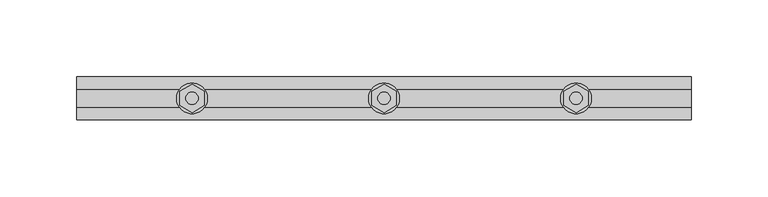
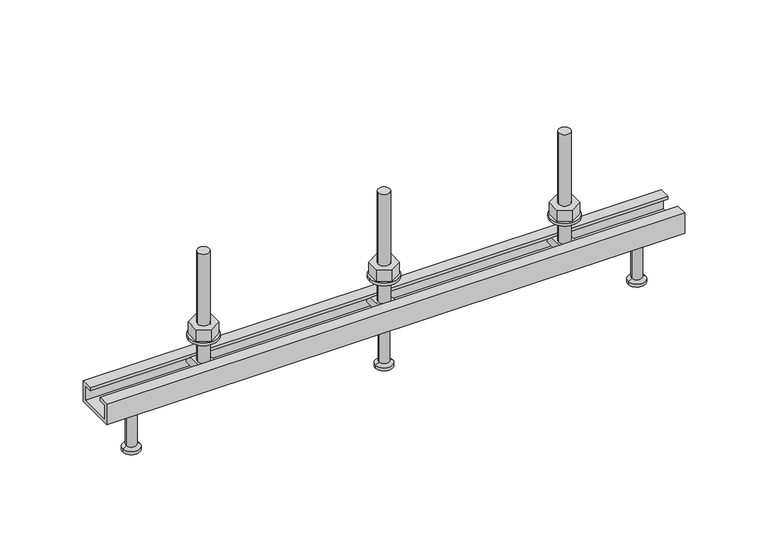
"""IFC4 building model written with IfcOpenShell, lengths in millimetres: fastener geometry, JTA-K JORDAHL® AnchorChannels : JTA-K L=400 mm."""

from ifc_helpers import new_model, si_unit, point, frame, frame_2d, origin, place, context, project, spatial, polyline, circle_curve, trimmed, segment, composite_curve, outline, extrude, source, transform, mapped, element, save
from ifc_brep_helpers import plane_surface, cylinder_surface, revolved_surface, advanced_brep


def fastener_0c17b6f2(model_context):
    return source(origin(), model_context, "Body", "SolidModel", [
        extrude(outline(polyline([(200.0, 9.2376043), (208.0, 4.6188022), (208.0, -4.6188022), (200.0, -9.2376043), (192.0, -4.6188022), (192.0, 4.6188022), (200.0, 9.2376043)]), holes=[composite_curve([segment(trimmed(circle_curve(frame_2d((200.0, 0.0)), 4.0), [point((196.0, 0.0))], [point((204.0, 0.0))], True, "CARTESIAN"), True, "CONTINUOUS"), segment(trimmed(circle_curve(frame_2d((200.0, 0.0)), 4.0), [point((204.0, 0.0))], [point((196.0, 0.0))], True, "CARTESIAN"), True, "CONTINUOUS")], self_intersect=False)]), frame((0.0, 0.0, 17.0), z_axis=(0.0, 0.0, 1.0), x_axis=(1.0, 0.0, 0.0)), (0.0, 0.0, 1.0), 8.4),
        extrude(outline(composite_curve([segment(trimmed(circle_curve(frame_2d((200.0, 0.0)), 10.0), [point((190.0, 0.0))], [point((210.0, 0.0))], False, "CARTESIAN"), True, "CONTINUOUS"), segment(trimmed(circle_curve(frame_2d((200.0, 0.0)), 10.0), [point((210.0, 0.0))], [point((190.0, 0.0))], False, "CARTESIAN"), True, "CONTINUOUS")], self_intersect=False), holes=[composite_curve([segment(trimmed(circle_curve(frame_2d((200.0, 0.0)), 5.25), [point((194.75, 0.0))], [point((205.25, 0.0))], True, "CARTESIAN"), True, "CONTINUOUS"), segment(trimmed(circle_curve(frame_2d((200.0, 0.0)), 5.25), [point((205.25, 0.0))], [point((194.75, 0.0))], True, "CARTESIAN"), True, "CONTINUOUS")], self_intersect=False)]), frame((0.0, 0.0, 15.0), z_axis=(0.0, 0.0, 1.0), x_axis=(1.0, 0.0, 0.0)), (0.0, 0.0, 1.0), 2.0),
        advanced_brep(
        [(205.5, 11.0, -2.3), (205.5, -11.0, -2.3), (205.5, -11.0, -8.3), (205.5, 11.0, -8.3), (194.5, 11.0, -2.3), (194.5, 11.0, -8.3), (194.5, -11.0, -8.3), (194.5, -11.0, -2.3), (204.0, 0.0, -2.3), (196.0, 0.0, -2.3), (196.0, 0.0, 77.7), (204.0, 0.0, 77.7)],
        [
            (0, 1),
            (1, 2),
            (2, 3),
            (3, 0),
            (4, 5),
            (5, 6),
            (6, 7),
            (7, 4),
            (0, 4),
            (7, 1),
            (8, 9, circle_curve(frame((200.0, 0.0, -2.3), z_axis=(0.0, 0.0, -1.0), x_axis=(1.0, 0.0, 0.0)), 4.0)),
            (9, 8, circle_curve(frame((200.0, 0.0, -2.3), z_axis=(0.0, 0.0, -1.0), x_axis=(1.0, 0.0, 0.0)), 4.0)),
            (6, 2),
            (5, 3),
            (10, 11, circle_curve(frame((200.0, 0.0, 77.7), z_axis=(0.0, 0.0, 1.0), x_axis=(1.0, 0.0, 0.0)), 4.0)),
            (11, 10, circle_curve(frame((200.0, 0.0, 77.7), z_axis=(0.0, 0.0, 1.0), x_axis=(1.0, 0.0, 0.0)), 4.0)),
            (10, 9),
            (8, 11),
        ],
        [
            plane_surface(frame((205.5, -11.0, -2.3), z_axis=(1.0, 0.0, 0.0), x_axis=(0.0, -1.0, 0.0))),
            plane_surface(frame((194.5, -11.0, -2.3), z_axis=(-1.0, 0.0, 0.0), x_axis=(0.0, 1.0, 0.0))),
            plane_surface(frame((205.5, 11.0, -2.3), z_axis=(0.0, 0.0, 1.0), x_axis=(-1.0, 0.0, 0.0))),
            plane_surface(frame((205.5, -11.0, -2.3), z_axis=(0.0, -1.0, 0.0), x_axis=(-1.0, 0.0, 0.0))),
            plane_surface(frame((205.5, -11.0, -8.3), z_axis=(0.0, 0.0, -1.0), x_axis=(-1.0, 0.0, 0.0))),
            plane_surface(frame((205.5, 11.0, -8.3), z_axis=(0.0, 1.0, 0.0), x_axis=(-1.0, 0.0, 0.0))),
            plane_surface(frame((204.0, 0.0, 77.7), z_axis=(0.0, 0.0, 1.0), x_axis=(0.0, 1.0, 0.0))),
            cylinder_surface(frame((200.0, 0.0, -2.3), z_axis=(0.0, 0.0, 1.0), x_axis=(1.0, 0.0, 0.0)), 4.0),
        ],
        [
            (0, [[1, 2, 3, 4]]),
            (1, [[5, 6, 7, 8]]),
            (2, [[-1, 9, -8, 10], [11, 12]]),
            (3, [[-2, -10, -7, 13]]),
            (4, [[-3, -13, -6, 14]]),
            (5, [[-4, -14, -5, -9]]),
            (6, [[15, 16]]),
            (7, [[-15, 17, -11, 18]]),
            (7, [[-16, -18, -12, -17]]),
        ],
    ),
        advanced_brep(
        [(200.0, 0.0, -15.0), (210.5, 0.0, -15.0), (189.5, 0.0, -15.0), (194.0, 0.0, -50.0), (206.0, 0.0, -50.0), (200.0, 0.0, -50.0), (194.0, 0.0, -48.0), (206.0, 0.0, -48.0), (196.5, 0.0, -46.5566243), (203.5, 0.0, -46.5566243), (196.5, 0.0, -17.5), (203.5, 0.0, -17.5)],
        [
            (0, 1),
            (1, 2, circle_curve(frame((200.0, 0.0, -15.0), z_axis=(0.0, 0.0, 1.0), x_axis=(1.0, 0.0, 0.0)), 10.5)),
            (2, 0),
            (2, 1, circle_curve(frame((200.0, 0.0, -15.0), z_axis=(0.0, 0.0, 1.0), x_axis=(1.0, 0.0, 0.0)), 10.5)),
            (3, 4, circle_curve(frame((200.0, 0.0, -50.0), z_axis=(0.0, 0.0, -1.0), x_axis=(1.0, 0.0, 0.0)), 6.0)),
            (4, 5),
            (5, 3),
            (4, 3, circle_curve(frame((200.0, 0.0, -50.0), z_axis=(0.0, 0.0, -1.0), x_axis=(1.0, 0.0, 0.0)), 6.0)),
            (6, 7, circle_curve(frame((200.0, 0.0, -48.0), z_axis=(0.0, 0.0, -1.0), x_axis=(1.0, 0.0, 0.0)), 6.0)),
            (7, 4),
            (3, 6),
            (7, 6, circle_curve(frame((200.0, 0.0, -48.0), z_axis=(0.0, 0.0, -1.0), x_axis=(1.0, 0.0, 0.0)), 6.0)),
            (8, 9, circle_curve(frame((200.0, 0.0, -46.5566243), z_axis=(0.0, 0.0, -1.0), x_axis=(1.0, 0.0, 0.0)), 3.5)),
            (9, 7),
            (6, 8),
            (9, 8, circle_curve(frame((200.0, 0.0, -46.5566243), z_axis=(0.0, 0.0, -1.0), x_axis=(1.0, 0.0, 0.0)), 3.5)),
            (10, 11, circle_curve(frame((200.0, 0.0, -17.5), z_axis=(0.0, 0.0, -1.0), x_axis=(1.0, 0.0, 0.0)), 3.5)),
            (11, 9),
            (8, 10),
            (11, 10, circle_curve(frame((200.0, 0.0, -17.5), z_axis=(0.0, 0.0, -1.0), x_axis=(1.0, 0.0, 0.0)), 3.5)),
            (1, 11),
            (10, 2),
        ],
        [
            plane_surface(frame((200.0, 0.0, -15.0), z_axis=(0.0, 0.0, 1.0), x_axis=(1.0, 0.0, 0.0))),
            plane_surface(frame((200.0, 0.0, -50.0), z_axis=(0.0, 0.0, -1.0), x_axis=(1.0, 0.0, 0.0))),
            cylinder_surface(frame((200.0, 0.0, 2249.3150031), z_axis=(0.0, 0.0, 1.0), x_axis=(1.0, 0.0, 0.0)), 6.0),
            revolved_surface(polyline([(206.0, 0.0, -48.0), (203.5, 0.0, -46.5566243)]), (200.0, 0.0, 2249.3150031), (0.0, 0.0, 1.0)),
            cylinder_surface(frame((200.0, 0.0, 2249.3150031), z_axis=(0.0, 0.0, 1.0), x_axis=(1.0, 0.0, 0.0)), 3.5),
            revolved_surface(polyline([(203.5, 0.0, -17.5), (210.5, 0.0, -15.0)]), (200.0, 0.0, 2249.3150031), (0.0, 0.0, 1.0)),
        ],
        [
            (0, [[1, 2, 3]]),
            (0, [[-3, 4, -1]]),
            (1, [[5, 6, 7]]),
            (1, [[8, -7, -6]]),
            (2, [[9, 10, -5, 11]]),
            (2, [[12, -11, -8, -10]]),
            (3, [[13, 14, -9, 15]]),
            (3, [[16, -15, -12, -14]]),
            (4, [[17, 18, -13, 19]]),
            (4, [[20, -19, -16, -18]]),
            (5, [[-2, 21, -17, 22]]),
            (5, [[-4, -22, -20, -21]]),
        ],
    ),
        extrude(outline(polyline([(325.0, 9.2376043), (333.0, 4.6188022), (333.0, -4.6188022), (325.0, -9.2376043), (317.0, -4.6188022), (317.0, 4.6188022), (325.0, 9.2376043)]), holes=[composite_curve([segment(trimmed(circle_curve(frame_2d((325.0, 0.0)), 4.0), [point((321.0, 0.0))], [point((329.0, 0.0))], True, "CARTESIAN"), True, "CONTINUOUS"), segment(trimmed(circle_curve(frame_2d((325.0, 0.0)), 4.0), [point((329.0, 0.0))], [point((321.0, 0.0))], True, "CARTESIAN"), True, "CONTINUOUS")], self_intersect=False)]), frame((0.0, 0.0, 17.0), z_axis=(0.0, 0.0, 1.0), x_axis=(1.0, 0.0, 0.0)), (0.0, 0.0, 1.0), 8.4),
        extrude(outline(composite_curve([segment(trimmed(circle_curve(frame_2d((325.0, 0.0)), 10.0), [point((315.0, 0.0))], [point((335.0, 0.0))], False, "CARTESIAN"), True, "CONTINUOUS"), segment(trimmed(circle_curve(frame_2d((325.0, 0.0)), 10.0), [point((335.0, 0.0))], [point((315.0, 0.0))], False, "CARTESIAN"), True, "CONTINUOUS")], self_intersect=False), holes=[composite_curve([segment(trimmed(circle_curve(frame_2d((325.0, 0.0)), 5.25), [point((319.75, 0.0))], [point((330.25, 0.0))], True, "CARTESIAN"), True, "CONTINUOUS"), segment(trimmed(circle_curve(frame_2d((325.0, 0.0)), 5.25), [point((330.25, 0.0))], [point((319.75, 0.0))], True, "CARTESIAN"), True, "CONTINUOUS")], self_intersect=False)]), frame((0.0, 0.0, 15.0), z_axis=(0.0, 0.0, 1.0), x_axis=(1.0, 0.0, 0.0)), (0.0, 0.0, 1.0), 2.0),
        extrude(outline(polyline([(75.0, 9.2376043), (83.0, 4.6188022), (83.0, -4.6188022), (75.0, -9.2376043), (67.0, -4.6188022), (67.0, 4.6188022), (75.0, 9.2376043)]), holes=[composite_curve([segment(trimmed(circle_curve(frame_2d((75.0, 0.0)), 4.0), [point((71.0, 0.0))], [point((79.0, 0.0))], True, "CARTESIAN"), True, "CONTINUOUS"), segment(trimmed(circle_curve(frame_2d((75.0, 0.0)), 4.0), [point((79.0, 0.0))], [point((71.0, 0.0))], True, "CARTESIAN"), True, "CONTINUOUS")], self_intersect=False)]), frame((0.0, 0.0, 17.0), z_axis=(0.0, 0.0, 1.0), x_axis=(1.0, 0.0, 0.0)), (0.0, 0.0, 1.0), 8.4),
        extrude(outline(composite_curve([segment(trimmed(circle_curve(frame_2d((75.0, 0.0)), 10.0), [point((65.0, 0.0))], [point((85.0, 0.0))], False, "CARTESIAN"), True, "CONTINUOUS"), segment(trimmed(circle_curve(frame_2d((75.0, 0.0)), 10.0), [point((85.0, 0.0))], [point((65.0, 0.0))], False, "CARTESIAN"), True, "CONTINUOUS")], self_intersect=False), holes=[composite_curve([segment(trimmed(circle_curve(frame_2d((75.0, 0.0)), 5.25), [point((69.75, 0.0))], [point((80.25, 0.0))], True, "CARTESIAN"), True, "CONTINUOUS"), segment(trimmed(circle_curve(frame_2d((75.0, 0.0)), 5.25), [point((80.25, 0.0))], [point((69.75, 0.0))], True, "CARTESIAN"), True, "CONTINUOUS")], self_intersect=False)]), frame((0.0, 0.0, 15.0), z_axis=(0.0, 0.0, 1.0), x_axis=(1.0, 0.0, 0.0)), (0.0, 0.0, 1.0), 2.0),
        advanced_brep(
        [(330.5, 11.0, -2.3), (330.5, -11.0, -2.3), (330.5, -11.0, -8.3), (330.5, 11.0, -8.3), (319.5, 11.0, -2.3), (319.5, 11.0, -8.3), (319.5, -11.0, -8.3), (319.5, -11.0, -2.3), (329.0, 0.0, -2.3), (321.0, 0.0, -2.3), (321.0, 0.0, 77.7), (329.0, 0.0, 77.7)],
        [
            (0, 1),
            (1, 2),
            (2, 3),
            (3, 0),
            (4, 5),
            (5, 6),
            (6, 7),
            (7, 4),
            (0, 4),
            (7, 1),
            (8, 9, circle_curve(frame((325.0, 0.0, -2.3), z_axis=(0.0, 0.0, -1.0), x_axis=(1.0, 0.0, 0.0)), 4.0)),
            (9, 8, circle_curve(frame((325.0, 0.0, -2.3), z_axis=(0.0, 0.0, -1.0), x_axis=(1.0, 0.0, 0.0)), 4.0)),
            (6, 2),
            (5, 3),
            (10, 11, circle_curve(frame((325.0, 0.0, 77.7), z_axis=(0.0, 0.0, 1.0), x_axis=(1.0, 0.0, 0.0)), 4.0)),
            (11, 10, circle_curve(frame((325.0, 0.0, 77.7), z_axis=(0.0, 0.0, 1.0), x_axis=(1.0, 0.0, 0.0)), 4.0)),
            (10, 9),
            (8, 11),
        ],
        [
            plane_surface(frame((330.5, -11.0, -2.3), z_axis=(1.0, 0.0, 0.0), x_axis=(0.0, -1.0, 0.0))),
            plane_surface(frame((319.5, -11.0, -2.3), z_axis=(-1.0, 0.0, 0.0), x_axis=(0.0, 1.0, 0.0))),
            plane_surface(frame((330.5, 11.0, -2.3), z_axis=(0.0, 0.0, 1.0), x_axis=(-1.0, 0.0, 0.0))),
            plane_surface(frame((330.5, -11.0, -2.3), z_axis=(0.0, -1.0, 0.0), x_axis=(-1.0, 0.0, 0.0))),
            plane_surface(frame((330.5, -11.0, -8.3), z_axis=(0.0, 0.0, -1.0), x_axis=(-1.0, 0.0, 0.0))),
            plane_surface(frame((330.5, 11.0, -8.3), z_axis=(0.0, 1.0, 0.0), x_axis=(-1.0, 0.0, 0.0))),
            plane_surface(frame((329.0, 0.0, 77.7), z_axis=(0.0, 0.0, 1.0), x_axis=(0.0, 1.0, 0.0))),
            cylinder_surface(frame((325.0, 0.0, -2.3), z_axis=(0.0, 0.0, 1.0), x_axis=(1.0, 0.0, 0.0)), 4.0),
        ],
        [
            (0, [[1, 2, 3, 4]]),
            (1, [[5, 6, 7, 8]]),
            (2, [[-1, 9, -8, 10], [11, 12]]),
            (3, [[-2, -10, -7, 13]]),
            (4, [[-3, -13, -6, 14]]),
            (5, [[-4, -14, -5, -9]]),
            (6, [[15, 16]]),
            (7, [[-15, 17, -11, 18]]),
            (7, [[-16, -18, -12, -17]]),
        ],
    ),
        advanced_brep(
        [(80.5, 11.0, -2.3), (80.5, -11.0, -2.3), (80.5, -11.0, -8.3), (80.5, 11.0, -8.3), (69.5, 11.0, -2.3), (69.5, 11.0, -8.3), (69.5, -11.0, -8.3), (69.5, -11.0, -2.3), (79.0, 0.0, -2.3), (71.0, 0.0, -2.3), (71.0, 0.0, 77.7), (79.0, 0.0, 77.7)],
        [
            (0, 1),
            (1, 2),
            (2, 3),
            (3, 0),
            (4, 5),
            (5, 6),
            (6, 7),
            (7, 4),
            (0, 4),
            (7, 1),
            (8, 9, circle_curve(frame((75.0, 0.0, -2.3), z_axis=(0.0, 0.0, -1.0), x_axis=(1.0, 0.0, 0.0)), 4.0)),
            (9, 8, circle_curve(frame((75.0, 0.0, -2.3), z_axis=(0.0, 0.0, -1.0), x_axis=(1.0, 0.0, 0.0)), 4.0)),
            (6, 2),
            (5, 3),
            (10, 11, circle_curve(frame((75.0, 0.0, 77.7), z_axis=(0.0, 0.0, 1.0), x_axis=(1.0, 0.0, 0.0)), 4.0)),
            (11, 10, circle_curve(frame((75.0, 0.0, 77.7), z_axis=(0.0, 0.0, 1.0), x_axis=(1.0, 0.0, 0.0)), 4.0)),
            (10, 9),
            (8, 11),
        ],
        [
            plane_surface(frame((80.5, -11.0, -2.3), z_axis=(1.0, 0.0, 0.0), x_axis=(0.0, -1.0, 0.0))),
            plane_surface(frame((69.5, -11.0, -2.3), z_axis=(-1.0, 0.0, 0.0), x_axis=(0.0, 1.0, 0.0))),
            plane_surface(frame((80.5, 11.0, -2.3), z_axis=(0.0, 0.0, 1.0), x_axis=(-1.0, 0.0, 0.0))),
            plane_surface(frame((80.5, -11.0, -2.3), z_axis=(0.0, -1.0, 0.0), x_axis=(-1.0, 0.0, 0.0))),
            plane_surface(frame((80.5, -11.0, -8.3), z_axis=(0.0, 0.0, -1.0), x_axis=(-1.0, 0.0, 0.0))),
            plane_surface(frame((80.5, 11.0, -8.3), z_axis=(0.0, 1.0, 0.0), x_axis=(-1.0, 0.0, 0.0))),
            plane_surface(frame((79.0, 0.0, 77.7), z_axis=(0.0, 0.0, 1.0), x_axis=(0.0, 1.0, 0.0))),
            cylinder_surface(frame((75.0, 0.0, -2.3), z_axis=(0.0, 0.0, 1.0), x_axis=(1.0, 0.0, 0.0)), 4.0),
        ],
        [
            (0, [[1, 2, 3, 4]]),
            (1, [[5, 6, 7, 8]]),
            (2, [[-1, 9, -8, 10], [11, 12]]),
            (3, [[-2, -10, -7, 13]]),
            (4, [[-3, -13, -6, 14]]),
            (5, [[-4, -14, -5, -9]]),
            (6, [[15, 16]]),
            (7, [[-15, 17, -11, 18]]),
            (7, [[-16, -18, -12, -17]]),
        ],
    ),
        advanced_brep(
        [(375.0, 0.0, -15.0), (385.5, 0.0, -15.0), (364.5, 0.0, -15.0), (369.0, 0.0, -50.0), (381.0, 0.0, -50.0), (375.0, 0.0, -50.0), (369.0, 0.0, -48.0), (381.0, 0.0, -48.0), (371.5, 0.0, -46.5566243), (378.5, 0.0, -46.5566243), (371.5, 0.0, -17.5), (378.5, 0.0, -17.5)],
        [
            (0, 1),
            (1, 2, circle_curve(frame((375.0, 0.0, -15.0), z_axis=(0.0, 0.0, 1.0), x_axis=(1.0, 0.0, 0.0)), 10.5)),
            (2, 0),
            (2, 1, circle_curve(frame((375.0, 0.0, -15.0), z_axis=(0.0, 0.0, 1.0), x_axis=(1.0, 0.0, 0.0)), 10.5)),
            (3, 4, circle_curve(frame((375.0, 0.0, -50.0), z_axis=(0.0, 0.0, -1.0), x_axis=(1.0, 0.0, 0.0)), 6.0)),
            (4, 5),
            (5, 3),
            (4, 3, circle_curve(frame((375.0, 0.0, -50.0), z_axis=(0.0, 0.0, -1.0), x_axis=(1.0, 0.0, 0.0)), 6.0)),
            (6, 7, circle_curve(frame((375.0, 0.0, -48.0), z_axis=(0.0, 0.0, -1.0), x_axis=(1.0, 0.0, 0.0)), 6.0)),
            (7, 4),
            (3, 6),
            (7, 6, circle_curve(frame((375.0, 0.0, -48.0), z_axis=(0.0, 0.0, -1.0), x_axis=(1.0, 0.0, 0.0)), 6.0)),
            (8, 9, circle_curve(frame((375.0, 0.0, -46.5566243), z_axis=(0.0, 0.0, -1.0), x_axis=(1.0, 0.0, 0.0)), 3.5)),
            (9, 7),
            (6, 8),
            (9, 8, circle_curve(frame((375.0, 0.0, -46.5566243), z_axis=(0.0, 0.0, -1.0), x_axis=(1.0, 0.0, 0.0)), 3.5)),
            (10, 11, circle_curve(frame((375.0, 0.0, -17.5), z_axis=(0.0, 0.0, -1.0), x_axis=(1.0, 0.0, 0.0)), 3.5)),
            (11, 9),
            (8, 10),
            (11, 10, circle_curve(frame((375.0, 0.0, -17.5), z_axis=(0.0, 0.0, -1.0), x_axis=(1.0, 0.0, 0.0)), 3.5)),
            (1, 11),
            (10, 2),
        ],
        [
            plane_surface(frame((375.0, 0.0, -15.0), z_axis=(0.0, 0.0, 1.0), x_axis=(1.0, 0.0, 0.0))),
            plane_surface(frame((375.0, 0.0, -50.0), z_axis=(0.0, 0.0, -1.0), x_axis=(1.0, 0.0, 0.0))),
            cylinder_surface(frame((375.0, 0.0, 2249.3150031), z_axis=(0.0, 0.0, 1.0), x_axis=(1.0, 0.0, 0.0)), 6.0),
            revolved_surface(polyline([(381.0, 0.0, -48.0), (378.5, 0.0, -46.5566243)]), (375.0, 0.0, 2249.3150031), (0.0, 0.0, 1.0)),
            cylinder_surface(frame((375.0, 0.0, 2249.3150031), z_axis=(0.0, 0.0, 1.0), x_axis=(1.0, 0.0, 0.0)), 3.5),
            revolved_surface(polyline([(378.5, 0.0, -17.5), (385.5, 0.0, -15.0)]), (375.0, 0.0, 2249.3150031), (0.0, 0.0, 1.0)),
        ],
        [
            (0, [[1, 2, 3]]),
            (0, [[-3, 4, -1]]),
            (1, [[5, 6, 7]]),
            (1, [[8, -7, -6]]),
            (2, [[9, 10, -5, 11]]),
            (2, [[12, -11, -8, -10]]),
            (3, [[13, 14, -9, 15]]),
            (3, [[16, -15, -12, -14]]),
            (4, [[17, 18, -13, 19]]),
            (4, [[20, -19, -16, -18]]),
            (5, [[-2, 21, -17, 22]]),
            (5, [[-4, -22, -20, -21]]),
        ],
    ),
        advanced_brep(
        [(25.0, 0.0, -15.0), (35.5, 0.0, -15.0), (14.5, 0.0, -15.0), (19.0, 0.0, -50.0), (31.0, 0.0, -50.0), (25.0, 0.0, -50.0), (19.0, 0.0, -48.0), (31.0, 0.0, -48.0), (21.5, 0.0, -46.5566243), (28.5, 0.0, -46.5566243), (21.5, 0.0, -17.5), (28.5, 0.0, -17.5)],
        [
            (0, 1),
            (1, 2, circle_curve(frame((25.0, 0.0, -15.0), z_axis=(0.0, 0.0, 1.0), x_axis=(1.0, 0.0, 0.0)), 10.5)),
            (2, 0),
            (2, 1, circle_curve(frame((25.0, 0.0, -15.0), z_axis=(0.0, 0.0, 1.0), x_axis=(1.0, 0.0, 0.0)), 10.5)),
            (3, 4, circle_curve(frame((25.0, 0.0, -50.0), z_axis=(0.0, 0.0, -1.0), x_axis=(1.0, 0.0, 0.0)), 6.0)),
            (4, 5),
            (5, 3),
            (4, 3, circle_curve(frame((25.0, 0.0, -50.0), z_axis=(0.0, 0.0, -1.0), x_axis=(1.0, 0.0, 0.0)), 6.0)),
            (6, 7, circle_curve(frame((25.0, 0.0, -48.0), z_axis=(0.0, 0.0, -1.0), x_axis=(1.0, 0.0, 0.0)), 6.0)),
            (7, 4),
            (3, 6),
            (7, 6, circle_curve(frame((25.0, 0.0, -48.0), z_axis=(0.0, 0.0, -1.0), x_axis=(1.0, 0.0, 0.0)), 6.0)),
            (8, 9, circle_curve(frame((25.0, 0.0, -46.5566243), z_axis=(0.0, 0.0, -1.0), x_axis=(1.0, 0.0, 0.0)), 3.5)),
            (9, 7),
            (6, 8),
            (9, 8, circle_curve(frame((25.0, 0.0, -46.5566243), z_axis=(0.0, 0.0, -1.0), x_axis=(1.0, 0.0, 0.0)), 3.5)),
            (10, 11, circle_curve(frame((25.0, 0.0, -17.5), z_axis=(0.0, 0.0, -1.0), x_axis=(1.0, 0.0, 0.0)), 3.5)),
            (11, 9),
            (8, 10),
            (11, 10, circle_curve(frame((25.0, 0.0, -17.5), z_axis=(0.0, 0.0, -1.0), x_axis=(1.0, 0.0, 0.0)), 3.5)),
            (1, 11),
            (10, 2),
        ],
        [
            plane_surface(frame((25.0, 0.0, -15.0), z_axis=(0.0, 0.0, 1.0), x_axis=(1.0, 0.0, 0.0))),
            plane_surface(frame((25.0, 0.0, -50.0), z_axis=(0.0, 0.0, -1.0), x_axis=(1.0, 0.0, 0.0))),
            cylinder_surface(frame((25.0, 0.0, 2249.3150031), z_axis=(0.0, 0.0, 1.0), x_axis=(1.0, 0.0, 0.0)), 6.0),
            revolved_surface(polyline([(31.0, 0.0, -48.0), (28.5, 0.0, -46.5566243)]), (25.0, 0.0, 2249.3150031), (0.0, 0.0, 1.0)),
            cylinder_surface(frame((25.0, 0.0, 2249.3150031), z_axis=(0.0, 0.0, 1.0), x_axis=(1.0, 0.0, 0.0)), 3.5),
            revolved_surface(polyline([(28.5, 0.0, -17.5), (35.5, 0.0, -15.0)]), (25.0, 0.0, 2249.3150031), (0.0, 0.0, 1.0)),
        ],
        [
            (0, [[1, 2, 3]]),
            (0, [[-3, 4, -1]]),
            (1, [[5, 6, 7]]),
            (1, [[8, -7, -6]]),
            (2, [[9, 10, -5, 11]]),
            (2, [[12, -11, -8, -10]]),
            (3, [[13, 14, -9, 15]]),
            (3, [[16, -15, -12, -14]]),
            (4, [[17, 18, -13, 19]]),
            (4, [[20, -19, -16, -18]]),
            (5, [[-2, 21, -17, 22]]),
            (5, [[-4, -22, -20, -21]]),
        ],
    ),
        extrude(outline(polyline([(14.0, 0.0), (14.0, -15.0), (-14.0, -15.0), (-14.0, 0.0), (-6.0, 0.0), (-6.0, -2.3), (-11.7, -2.3), (-11.7, -12.7), (11.7, -12.7), (11.7, -2.3), (6.0, -2.3), (6.0, 0.0), (14.0, 0.0)])), frame((0.0, 0.0, 0.0), z_axis=(1.0, 0.0, 0.0), x_axis=(0.0, 1.0, 0.0)), (0.0, 0.0, 1.0), 400.0),
    ])


if __name__ == "__main__":
    model = new_model("IFC4")
    model_context = context("Model", 3, world=origin())
    ifc_project = project(units=[si_unit("LENGTHUNIT", "METRE", prefix="MILLI")], contexts=[model_context])
    site = spatial("IfcSite", under=ifc_project)
    building = spatial("IfcBuilding", under=site)
    placement = place(None, origin())
    fastener_shape = fastener_0c17b6f2(model_context)
    element("IfcFastener", 1, ObjectType="JTA-K JORDAHL® AnchorChannels : JTA-K L=400 mm", at=placement, inside=building, context=model_context, shape_type="MappedRepresentation", body=[
        mapped(fastener_shape, transform((0.0, 0.0, 0.0), x_axis=(1.0, 0.0, 0.0), y_axis=(0.0, 1.0, 0.0), z_axis=(0.0, 0.0, 1.0))),
    ])
    save(model, "model.ifc")
